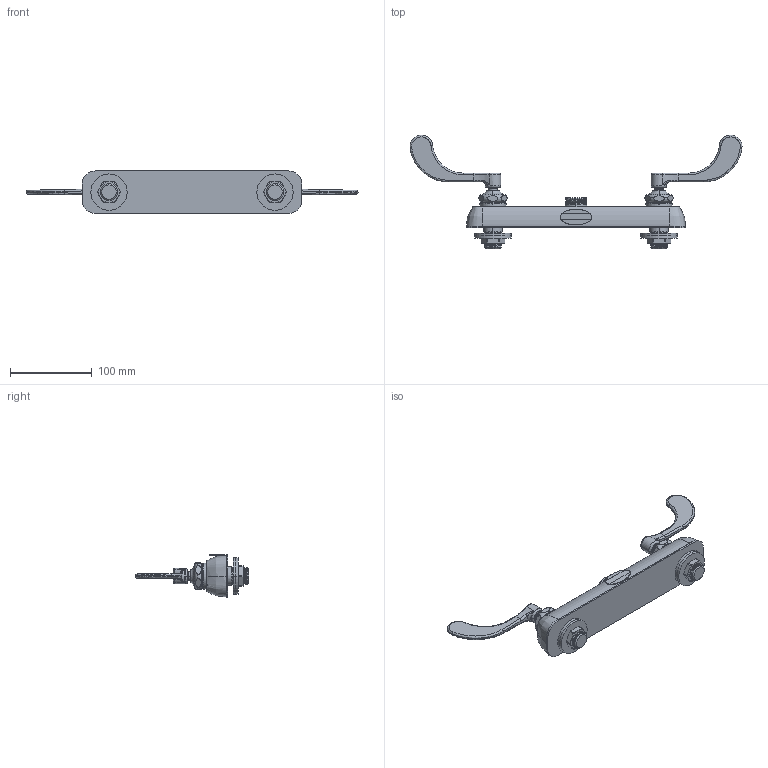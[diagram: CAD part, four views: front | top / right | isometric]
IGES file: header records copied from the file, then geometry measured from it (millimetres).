
Start section:  PTC IGES file: w8d-less317ab_sw0001.igs
Global section: file name: w8d-less317ab_sw0001.igs; native system: Creo Parametric by Parametric Technology Corporation; preprocessor: 2012360; author: jrodriguez; organization: Unknown; date: 20130305.101839; units: inch
Bounding box: 406.4 x 138.79 x 52.06 mm (x, y, z)
Surface area: 95140.7 mm2 (no closed solid volume)
Topology: 0 solids, 0 shells, 388 faces, 2165 edges, 2165 vertices
Faces by surface type: revolution 278, bspline 110
